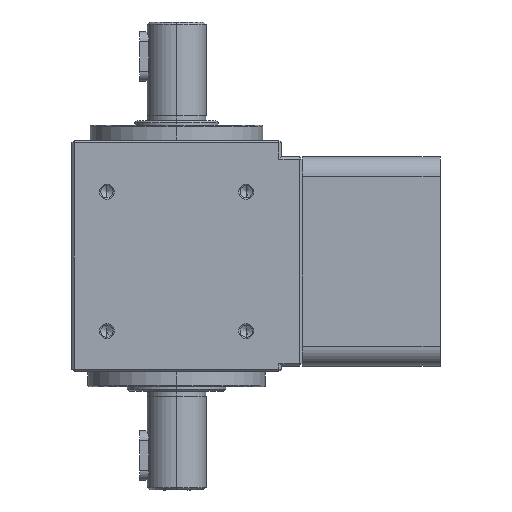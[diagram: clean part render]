
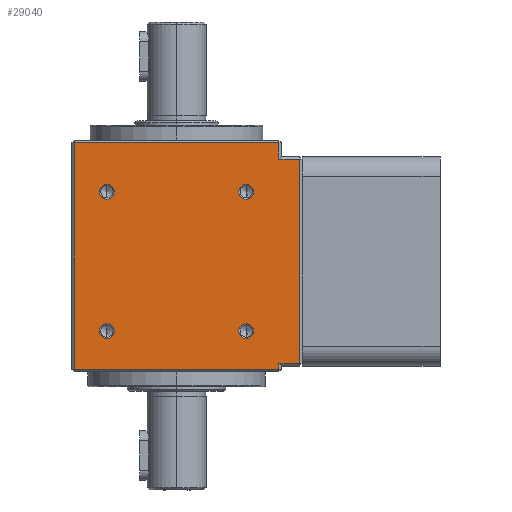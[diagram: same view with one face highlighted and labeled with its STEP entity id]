
A CAD part, left-side view. The second image highlights one B-rep face of the part: STEP entity #29040.
In plain terms, the highlighted planar face has unit normal (-1, 0, 0) as drawn and (1, 0, 0) by its records, which use the part's own axes.
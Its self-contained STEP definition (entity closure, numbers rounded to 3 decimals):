
#499 = VERTEX_POINT ( 'NONE', #9299 ) ;
#610 = DIRECTION ( 'NONE',  ( 0., 0., -1. ) ) ;
#756 = DIRECTION ( 'NONE',  ( 0., 0., 1. ) ) ;
#814 = CARTESIAN_POINT ( 'NONE',  ( 21.25, -20.75, 53. ) ) ;
#854 = VERTEX_POINT ( 'NONE', #8337 ) ;
#1307 = CARTESIAN_POINT ( 'NONE',  ( 21.25, -14.142, 14.958 ) ) ;
#1386 = CIRCLE ( 'NONE', #16060, 1.5 ) ;
#1624 = AXIS2_PLACEMENT_3D ( 'NONE', #28221, #4020, #13733 ) ;
#1689 = VECTOR ( 'NONE', #27911, 1000. ) ;
#1714 = EDGE_CURVE ( 'NONE', #499, #23700, #1386, .T. ) ;
#1757 = DIRECTION ( 'NONE',  ( 0., 0., -1. ) ) ;
#2187 = VECTOR ( 'NONE', #19247, 1000. ) ;
#2438 = DIRECTION ( 'NONE',  ( 0., 1., 0. ) ) ;
#2452 = CARTESIAN_POINT ( 'NONE',  ( 21.25, -21.25, 6.85 ) ) ;
#2681 = DIRECTION ( 'NONE',  ( 1., 0., 0. ) ) ;
#2846 = CIRCLE ( 'NONE', #31134, 1.5 ) ;
#3182 = EDGE_LOOP ( 'NONE', ( #21230, #29857 ) ) ;
#3523 = EDGE_CURVE ( 'NONE', #20373, #17344, #30070, .T. ) ;
#3657 = CARTESIAN_POINT ( 'NONE',  ( 21.25, 14.142, 14.958 ) ) ;
#3871 = DIRECTION ( 'NONE',  ( 0., 0., -1. ) ) ;
#4020 = DIRECTION ( 'NONE',  ( 1., 0., 0. ) ) ;
#4095 = CARTESIAN_POINT ( 'NONE',  ( 21.25, 14.142, 41.742 ) ) ;
#5201 = VERTEX_POINT ( 'NONE', #17910 ) ;
#5213 = VECTOR ( 'NONE', #21638, 1000. ) ;
#5317 = LINE ( 'NONE', #2452, #10230 ) ;
#5847 = CIRCLE ( 'NONE', #21500, 1.5 ) ;
#5917 = DIRECTION ( 'NONE',  ( 0., 0., -1. ) ) ;
#6267 = CARTESIAN_POINT ( 'NONE',  ( 21.25, 14.142, 13.458 ) ) ;
#6761 = CIRCLE ( 'NONE', #11702, 1.5 ) ;
#6778 = ORIENTED_EDGE ( 'NONE', *, *, #1714, .F. ) ;
#7186 = DIRECTION ( 'NONE',  ( 0., 0., 1. ) ) ;
#7312 = CARTESIAN_POINT ( 'NONE',  ( 21.25, 14.142, 13.458 ) ) ;
#7510 = ORIENTED_EDGE ( 'NONE', *, *, #12920, .F. ) ;
#7724 = CARTESIAN_POINT ( 'NONE',  ( 21.25, -14.142, 13.458 ) ) ;
#7768 = LINE ( 'NONE', #814, #26306 ) ;
#7875 = EDGE_CURVE ( 'NONE', #25808, #22872, #20696, .T. ) ;
#7926 = EDGE_CURVE ( 'NONE', #17344, #854, #21847, .T. ) ;
#8034 = DIRECTION ( 'NONE',  ( -1., 0., 0. ) ) ;
#8073 = CARTESIAN_POINT ( 'NONE',  ( 21.25, -20.75, 49.5 ) ) ;
#8092 = ORIENTED_EDGE ( 'NONE', *, *, #29679, .F. ) ;
#8235 = CARTESIAN_POINT ( 'NONE',  ( 21.25, -14.142, 41.742 ) ) ;
#8253 = ORIENTED_EDGE ( 'NONE', *, *, #3523, .T. ) ;
#8314 = ORIENTED_EDGE ( 'NONE', *, *, #29866, .F. ) ;
#8318 = CARTESIAN_POINT ( 'NONE',  ( 21.25, 14.142, 40.242 ) ) ;
#8337 = CARTESIAN_POINT ( 'NONE',  ( 21.25, 20.75, 49.5 ) ) ;
#8491 = DIRECTION ( 'NONE',  ( 1., 0., 0. ) ) ;
#8932 = VECTOR ( 'NONE', #26965, 1000. ) ;
#9166 = ORIENTED_EDGE ( 'NONE', *, *, #19418, .T. ) ;
#9299 = CARTESIAN_POINT ( 'NONE',  ( 21.25, 14.142, 11.958 ) ) ;
#9702 = ORIENTED_EDGE ( 'NONE', *, *, #29955, .T. ) ;
#10157 = DIRECTION ( 'NONE',  ( 0., 0., -1. ) ) ;
#10230 = VECTOR ( 'NONE', #17026, 1000. ) ;
#10431 = CARTESIAN_POINT ( 'NONE',  ( 21.25, 20.75, 3.5 ) ) ;
#10884 = VECTOR ( 'NONE', #7186, 1000. ) ;
#11191 = EDGE_CURVE ( 'NONE', #13904, #5201, #5317, .T. ) ;
#11234 = DIRECTION ( 'NONE',  ( 0., 0., -1. ) ) ;
#11702 = AXIS2_PLACEMENT_3D ( 'NONE', #20745, #8491, #15980 ) ;
#12316 = FACE_BOUND ( 'NONE', #26575, .T. ) ;
#12920 = EDGE_CURVE ( 'NONE', #16234, #26092, #2846, .T. ) ;
#13375 = CARTESIAN_POINT ( 'NONE',  ( 21.25, -14.142, 13.458 ) ) ;
#13485 = DIRECTION ( 'NONE',  ( 1., 0., 0. ) ) ;
#13532 = LINE ( 'NONE', #26461, #2187 ) ;
#13733 = DIRECTION ( 'NONE',  ( 0., 0., -1. ) ) ;
#13904 = VERTEX_POINT ( 'NONE', #23990 ) ;
#14499 = ORIENTED_EDGE ( 'NONE', *, *, #11191, .T. ) ;
#14957 = ORIENTED_EDGE ( 'NONE', *, *, #7875, .T. ) ;
#15221 = PLANE ( 'NONE',  #24940 ) ;
#15614 = CIRCLE ( 'NONE', #1624, 1.5 ) ;
#15646 = LINE ( 'NONE', #30015, #1689 ) ;
#15980 = DIRECTION ( 'NONE',  ( 0., 0., -1. ) ) ;
#16060 = AXIS2_PLACEMENT_3D ( 'NONE', #6267, #23154, #11234 ) ;
#16234 = VERTEX_POINT ( 'NONE', #21383 ) ;
#16371 = ORIENTED_EDGE ( 'NONE', *, *, #27688, .T. ) ;
#16853 = FACE_BOUND ( 'NONE', #3182, .T. ) ;
#16898 = CARTESIAN_POINT ( 'NONE',  ( 21.25, 21.25, 3.5 ) ) ;
#17026 = DIRECTION ( 'NONE',  ( 0., 1., 0. ) ) ;
#17344 = VERTEX_POINT ( 'NONE', #10431 ) ;
#17910 = CARTESIAN_POINT ( 'NONE',  ( 21.25, -20.75, 6.85 ) ) ;
#18093 = EDGE_CURVE ( 'NONE', #24990, #27890, #21469, .T. ) ;
#19247 = DIRECTION ( 'NONE',  ( 0., -1., 0. ) ) ;
#19282 = AXIS2_PLACEMENT_3D ( 'NONE', #8235, #20387, #5917 ) ;
#19418 = EDGE_CURVE ( 'NONE', #5201, #20373, #22560, .T. ) ;
#19546 = DIRECTION ( 'NONE',  ( 0., 0., -1. ) ) ;
#19710 = VERTEX_POINT ( 'NONE', #30782 ) ;
#19873 = CARTESIAN_POINT ( 'NONE',  ( 21.25, 14.142, 43.242 ) ) ;
#20373 = VERTEX_POINT ( 'NONE', #24950 ) ;
#20387 = DIRECTION ( 'NONE',  ( 1., 0., 0. ) ) ;
#20391 = CIRCLE ( 'NONE', #19282, 1.5 ) ;
#20696 = LINE ( 'NONE', #23962, #5213 ) ;
#20745 = CARTESIAN_POINT ( 'NONE',  ( 21.25, -14.142, 41.742 ) ) ;
#20975 = DIRECTION ( 'NONE',  ( 1., 0., 0. ) ) ;
#21230 = ORIENTED_EDGE ( 'NONE', *, *, #25880, .F. ) ;
#21232 = CARTESIAN_POINT ( 'NONE',  ( 21.25, 20.75, 53. ) ) ;
#21341 = VECTOR ( 'NONE', #2438, 1000. ) ;
#21383 = CARTESIAN_POINT ( 'NONE',  ( 21.25, -14.142, 11.958 ) ) ;
#21469 = CIRCLE ( 'NONE', #30286, 1.5 ) ;
#21500 = AXIS2_PLACEMENT_3D ( 'NONE', #7312, #2681, #19546 ) ;
#21638 = DIRECTION ( 'NONE',  ( 0., -1., 0. ) ) ;
#21847 = LINE ( 'NONE', #21232, #10884 ) ;
#22114 = EDGE_CURVE ( 'NONE', #27890, #24990, #15614, .T. ) ;
#22501 = FACE_BOUND ( 'NONE', #28630, .T. ) ;
#22560 = LINE ( 'NONE', #29713, #8932 ) ;
#22872 = VERTEX_POINT ( 'NONE', #24606 ) ;
#23144 = ORIENTED_EDGE ( 'NONE', *, *, #7926, .T. ) ;
#23154 = DIRECTION ( 'NONE',  ( 1., 0., 0. ) ) ;
#23216 = VERTEX_POINT ( 'NONE', #25453 ) ;
#23700 = VERTEX_POINT ( 'NONE', #3657 ) ;
#23962 = CARTESIAN_POINT ( 'NONE',  ( 21.25, -25.5, 48.35 ) ) ;
#23990 = CARTESIAN_POINT ( 'NONE',  ( 21.25, -25., 6.85 ) ) ;
#24061 = ORIENTED_EDGE ( 'NONE', *, *, #18093, .F. ) ;
#24606 = CARTESIAN_POINT ( 'NONE',  ( 21.25, -25., 48.35 ) ) ;
#24612 = DIRECTION ( 'NONE',  ( 1., 0., 0. ) ) ;
#24728 = ORIENTED_EDGE ( 'NONE', *, *, #22114, .F. ) ;
#24940 = AXIS2_PLACEMENT_3D ( 'NONE', #27369, #8034, #756 ) ;
#24950 = CARTESIAN_POINT ( 'NONE',  ( 21.25, -20.75, 3.5 ) ) ;
#24990 = VERTEX_POINT ( 'NONE', #8318 ) ;
#25153 = FACE_BOUND ( 'NONE', #30062, .T. ) ;
#25453 = CARTESIAN_POINT ( 'NONE',  ( 21.25, -14.142, 43.242 ) ) ;
#25782 = AXIS2_PLACEMENT_3D ( 'NONE', #7724, #24612, #10157 ) ;
#25808 = VERTEX_POINT ( 'NONE', #27628 ) ;
#25880 = EDGE_CURVE ( 'NONE', #19710, #23216, #6761, .T. ) ;
#26022 = EDGE_LOOP ( 'NONE', ( #9702, #14499, #9166, #8253, #23144, #16371, #26067, #14957 ) ) ;
#26067 = ORIENTED_EDGE ( 'NONE', *, *, #30580, .T. ) ;
#26092 = VERTEX_POINT ( 'NONE', #1307 ) ;
#26306 = VECTOR ( 'NONE', #610, 1000. ) ;
#26461 = CARTESIAN_POINT ( 'NONE',  ( 21.25, -21.25, 49.5 ) ) ;
#26575 = EDGE_LOOP ( 'NONE', ( #7510, #8314 ) ) ;
#26965 = DIRECTION ( 'NONE',  ( 0., 0., -1. ) ) ;
#27369 = CARTESIAN_POINT ( 'NONE',  ( 21.25, -21.25, 53. ) ) ;
#27628 = CARTESIAN_POINT ( 'NONE',  ( 21.25, -20.75, 48.35 ) ) ;
#27688 = EDGE_CURVE ( 'NONE', #854, #31339, #13532, .T. ) ;
#27890 = VERTEX_POINT ( 'NONE', #19873 ) ;
#27911 = DIRECTION ( 'NONE',  ( 0., 0., -1. ) ) ;
#28221 = CARTESIAN_POINT ( 'NONE',  ( 21.25, 14.142, 41.742 ) ) ;
#28630 = EDGE_LOOP ( 'NONE', ( #24061, #24728 ) ) ;
#28976 = FACE_OUTER_BOUND ( 'NONE', #26022, .T. ) ;
#29040 = ADVANCED_FACE ( 'NONE', ( #28976, #12316, #16853, #22501, #25153 ), #15221, .F. ) ;
#29679 = EDGE_CURVE ( 'NONE', #23700, #499, #5847, .T. ) ;
#29713 = CARTESIAN_POINT ( 'NONE',  ( 21.25, -20.75, 53. ) ) ;
#29857 = ORIENTED_EDGE ( 'NONE', *, *, #30016, .F. ) ;
#29866 = EDGE_CURVE ( 'NONE', #26092, #16234, #30840, .T. ) ;
#29955 = EDGE_CURVE ( 'NONE', #22872, #13904, #15646, .T. ) ;
#30015 = CARTESIAN_POINT ( 'NONE',  ( 21.25, -25., 53. ) ) ;
#30016 = EDGE_CURVE ( 'NONE', #23216, #19710, #20391, .T. ) ;
#30062 = EDGE_LOOP ( 'NONE', ( #6778, #8092 ) ) ;
#30070 = LINE ( 'NONE', #16898, #21341 ) ;
#30286 = AXIS2_PLACEMENT_3D ( 'NONE', #4095, #20975, #1757 ) ;
#30580 = EDGE_CURVE ( 'NONE', #31339, #25808, #7768, .T. ) ;
#30782 = CARTESIAN_POINT ( 'NONE',  ( 21.25, -14.142, 40.242 ) ) ;
#30840 = CIRCLE ( 'NONE', #25782, 1.5 ) ;
#31134 = AXIS2_PLACEMENT_3D ( 'NONE', #13375, #13485, #3871 ) ;
#31339 = VERTEX_POINT ( 'NONE', #8073 ) ;
